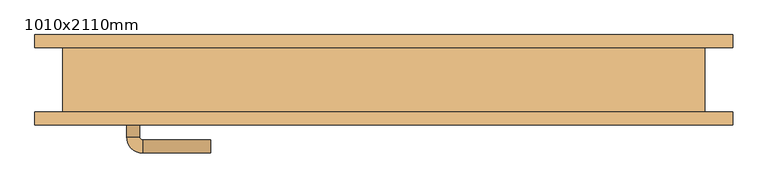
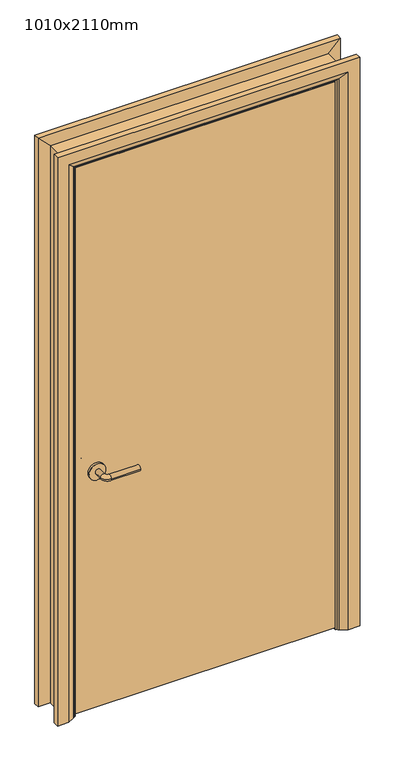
"""IFC4 building model written with IfcOpenShell, lengths in millimetres: door geometry, BIMHealth-Single_Door-LOD2A-v1 : 1010x2110mm."""

import ifcopenshell
import ifcopenshell.guid

model = None  # the IFC model being written
_history = None  # IfcOwnerHistory: only IFC2X3 demands one
_inside = {}  # id of a spatial element -> (the spatial element, [elements in it])
_under = {}  # id of a project, library or spatial element -> (it, [spatial elements below it])
_declared = {}  # id of a project -> (the project, [libraries it declares])
_typed = {}  # id of a type object -> (the type object, [elements of that type])
_made_of = {}  # id of a material, layer set ... -> (it, [elements and type objects made of it])


def new_model(schema):
    """Start an empty IFC model of exactly this schema.

    Asked for "IFC4X3", IfcOpenShell would pick the latest addendum, in which some entities
    have other attributes; the version numbers below select the first issue.
    IFC2X3 requires an IfcOwnerHistory on every rooted entity: one is made here for all.
    """
    global model, _history
    if schema == "IFC4X3":
        model = ifcopenshell.file(schema_version=(4, 3, 0, 0))
    else:
        model = ifcopenshell.file(schema=schema)
    _inside.clear()
    _under.clear()
    _declared.clear()
    _typed.clear()
    _made_of.clear()
    _history = None
    if model.schema == "IFC2X3":
        org = make("IfcOrganization", Name="unknown")
        user = make(
            "IfcPersonAndOrganization",
            ThePerson=make("IfcPerson", FamilyName="unknown"),
            TheOrganization=org,
        )
        app = make(
            "IfcApplication",
            ApplicationDeveloper=org,
            Version="unknown",
            ApplicationFullName="unknown",
            ApplicationIdentifier="unknown",
        )
        _history = make(
            "IfcOwnerHistory",
            OwningUser=user,
            OwningApplication=app,
            ChangeAction="ADDED",
            CreationDate=0,
        )
    return model


def make(cls, **values):
    """One entity of the class cls with the attributes given. An attribute that is None is left unset."""
    return model.create_entity(
        cls, **{name: value for name, value in values.items() if value is not None}
    )


def rooted(cls, **values):
    """An entity with a GlobalId (a new one), such as an element, a storey or a relation."""
    return make(cls, GlobalId=ifcopenshell.guid.new(), OwnerHistory=_history, **values)


def si_unit(unit_type, name, prefix=None):
    """IfcSIUnit, for example si_unit("LENGTHUNIT", "METRE", prefix="MILLI")."""
    return make("IfcSIUnit", UnitType=unit_type, Prefix=prefix, Name=name)


def assignment(units):
    """IfcUnitAssignment: the units of a project."""
    return None if units is None else make("IfcUnitAssignment", Units=units)


def point(xyz):
    """IfcCartesianPoint."""
    return None if xyz is None else make("IfcCartesianPoint", Coordinates=xyz)


def direction(xyz):
    """IfcDirection."""
    return None if xyz is None else make("IfcDirection", DirectionRatios=xyz)


def frame(location, z_axis=None, x_axis=None):
    """IfcAxis2Placement3D, a coordinate frame: its origin and axes. An axis left out is left unset."""
    return make(
        "IfcAxis2Placement3D",
        Location=point(location),
        Axis=direction(z_axis),
        RefDirection=direction(x_axis),
    )


def frame_2d(location, x_axis=None):
    """IfcAxis2Placement2D, a coordinate frame in the plane: its origin and x axis."""
    return make(
        "IfcAxis2Placement2D", Location=point(location), RefDirection=direction(x_axis)
    )


def origin():
    """The frame at (0, 0, 0) with its axes left unset."""
    return frame((0.0, 0.0, 0.0))


def place(relative_to, where):
    """IfcLocalPlacement: puts the frame where relative to a parent placement (None: the world)."""
    return make(
        "IfcLocalPlacement", PlacementRelTo=relative_to, RelativePlacement=where
    )


def context(
    kind, dimensions, precision=None, world=None, true_north=None, identifier=None
):
    """IfcGeometricRepresentationContext, for example the 3D "Model" context."""
    return make(
        "IfcGeometricRepresentationContext",
        ContextIdentifier=identifier,
        ContextType=kind,
        CoordinateSpaceDimension=dimensions,
        Precision=precision,
        WorldCoordinateSystem=world,
        TrueNorth=true_north,
    )


def project(units=None, contexts=None):
    """IfcProject with its units and contexts."""
    return rooted(
        "IfcProject",
        Name="project",
        RepresentationContexts=contexts,
        UnitsInContext=assignment(units),
    )


def spatial(cls, under=None, at=None, **own):
    """A site, building, storey or space (cls), placed at a placement, below another one or the project."""
    s = rooted(cls, ObjectPlacement=at, **own)
    if under is not None:
        _under.setdefault(under.id(), (under, []))[1].append(s)
    return s


def polyline(points):
    """IfcPolyline through the points."""
    return make("IfcPolyline", Points=[point(p) for p in points])


def circle_curve(where, radius):
    """IfcCircle in the frame where."""
    return make("IfcCircle", Position=where, Radius=radius)


def ellipse_curve(where, semi_axis1, semi_axis2):
    """IfcEllipse in the frame where."""
    return make(
        "IfcEllipse", Position=where, SemiAxis1=semi_axis1, SemiAxis2=semi_axis2
    )


def trimmed(basis, trim1, trim2, sense, master):
    """IfcTrimmedCurve: the piece of a basis curve between two trims."""
    return make(
        "IfcTrimmedCurve",
        BasisCurve=basis,
        Trim1=trim1,
        Trim2=trim2,
        SenseAgreement=sense,
        MasterRepresentation=master,
    )


def segment(curve, same_sense, transition):
    """IfcCompositeCurveSegment."""
    return make(
        "IfcCompositeCurveSegment",
        Transition=transition,
        SameSense=same_sense,
        ParentCurve=curve,
    )


def composite_curve(segments, self_intersect=None):
    """IfcCompositeCurve: segments joined end to end."""
    return make("IfcCompositeCurve", Segments=segments, SelfIntersect=self_intersect)


def outline(outer, holes=None, kind="AREA"):
    """IfcArbitraryClosedProfileDef: a profile drawn as a closed curve; with holes, ...WithVoids."""
    if holes is None:
        return make("IfcArbitraryClosedProfileDef", ProfileType=kind, OuterCurve=outer)
    return make(
        "IfcArbitraryProfileDefWithVoids",
        ProfileType=kind,
        OuterCurve=outer,
        InnerCurves=holes,
    )


def extrude(swept, where, along, depth):
    """IfcExtrudedAreaSolid: the profile swept, set in the frame where, extruded along a direction by depth."""
    return make(
        "IfcExtrudedAreaSolid",
        SweptArea=swept,
        Position=where,
        ExtrudedDirection=direction(along),
        Depth=depth,
    )


def faces_of(points, faces, orient=None, outer=None):
    """IfcFace entities. A face is a list of loops; a loop is a list of indices into points, from 0.

    orient and outer hold one flag for each loop. By default every Orientation is true, the
    first loop of a face is its IfcFaceOuterBound and the others are IfcFaceBound.
    """
    made = []
    for i, loops in enumerate(faces):
        bounds = []
        for j, loop in enumerate(loops):
            is_outer = j == 0 if outer is None else outer[i][j]
            bounds.append(
                make(
                    "IfcFaceOuterBound" if is_outer else "IfcFaceBound",
                    Bound=make("IfcPolyLoop", Polygon=[points[k] for k in loop]),
                    Orientation=True if orient is None else orient[i][j],
                )
            )
        made.append(make("IfcFace", Bounds=bounds))
    return made


def faceted_brep(points, faces, orient=None, outer=None, voids=None):
    """IfcFacetedBrep: a solid bounded by flat faces; with voids (closed shells), ...WithVoids."""
    shared = [point(p) for p in points]
    hull = make("IfcClosedShell", CfsFaces=faces_of(shared, faces, orient, outer))
    if voids is None:
        return make("IfcFacetedBrep", Outer=hull)
    return make(
        "IfcFacetedBrepWithVoids",
        Outer=hull,
        Voids=[
            make(cls, CfsFaces=faces_of(shared, fs, o, b)) for cls, fs, o, b in voids
        ],
    )


def shape(context_of_items, identifier, shape_type, items):
    """IfcShapeRepresentation: the items that make up one representation, for example the "Body"."""
    return make(
        "IfcShapeRepresentation",
        ContextOfItems=context_of_items,
        RepresentationIdentifier=identifier,
        RepresentationType=shape_type,
        Items=items,
    )


def source(mapping_origin, context_of_items, identifier, shape_type, items):
    """IfcRepresentationMap: a shape defined once, which mapped items show again and again."""
    return make(
        "IfcRepresentationMap",
        MappingOrigin=mapping_origin,
        MappedRepresentation=shape(context_of_items, identifier, shape_type, items),
    )


def transform(
    local_origin,
    x_axis=None,
    y_axis=None,
    z_axis=None,
    scale=None,
    scale2=None,
    scale3=None,
    uniform=True,
):
    """IfcCartesianTransformationOperator3D, or its non-uniform kind. x_axis, y_axis, z_axis: its Axis1, 2, 3."""
    if uniform:
        return make(
            "IfcCartesianTransformationOperator3D",
            Axis1=direction(x_axis),
            Axis2=direction(y_axis),
            LocalOrigin=point(local_origin),
            Scale=scale,
            Axis3=direction(z_axis),
        )
    return make(
        "IfcCartesianTransformationOperator3DnonUniform",
        Axis1=direction(x_axis),
        Axis2=direction(y_axis),
        LocalOrigin=point(local_origin),
        Scale=scale,
        Axis3=direction(z_axis),
        Scale2=scale2,
        Scale3=scale3,
    )


def mapped(mapping_source, mapping_target):
    """IfcMappedItem: shows the shape of a source again, moved by a transform."""
    return make(
        "IfcMappedItem", MappingSource=mapping_source, MappingTarget=mapping_target
    )


def made_of(thing, what):
    """Note that an element or type object is made of a material, layer set ...; save() writes the relation."""
    if what is not None:
        _made_of.setdefault(what.id(), (what, []))[1].append(thing)
    return thing


def element(
    cls,
    number,
    at=None,
    inside=None,
    cuts=None,
    type_object=None,
    material=None,
    context=None,
    identifier="Body",
    shape_type=None,
    held_by="IfcProductDefinitionShape",
    body=None,
    shapes=None,
    **own,
):
    """One element of the class cls, such as IfcWall. Its Tag is "e" and its number.

    at: its placement. inside: the storey or other place that contains it. cuts: it is an
    opening in that element (IfcRelVoidsElement). A single representation is given by context,
    identifier, shape_type and body (its items); several are given by shapes. held_by: the class
    of the entity that holds the representations. save() writes the other relations.
    """
    e = rooted(cls, Tag="e%d" % number, ObjectPlacement=at, **own)
    if body is not None:
        shapes = [shape(context, identifier, shape_type, body)]
    if shapes is not None:
        e.Representation = make(held_by, Representations=shapes)
    if inside is not None:
        _inside.setdefault(inside.id(), (inside, []))[1].append(e)
    if cuts is not None:
        rooted(
            "IfcRelVoidsElement", RelatingBuildingElement=cuts, RelatedOpeningElement=e
        )
    if type_object is not None:
        _typed.setdefault(type_object.id(), (type_object, []))[1].append(e)
    return made_of(e, material)


def aggregate(whole, parts):
    """IfcRelAggregates: a whole, such as a stair, and the parts it consists of."""
    return rooted("IfcRelAggregates", RelatingObject=whole, RelatedObjects=parts)


def save(model, path):
    """Write the relations noted so far, then the file.

    IfcRelAggregates (storeys below a building ...), IfcRelContainedInSpatialStructure (elements
    in a storey), IfcRelDefinesByType, IfcRelAssociatesMaterial and IfcRelDeclares: one each for
    every whole, place, type object, material and project.
    """
    for whole, parts in _under.values():
        aggregate(whole, parts)
    for where, things in _inside.values():
        rooted(
            "IfcRelContainedInSpatialStructure",
            RelatedElements=things,
            RelatingStructure=where,
        )
    for kind, things in _typed.values():
        rooted("IfcRelDefinesByType", RelatedObjects=things, RelatingType=kind)
    for what, things in _made_of.values():
        rooted("IfcRelAssociatesMaterial", RelatedObjects=things, RelatingMaterial=what)
    for by, libraries in _declared.values():
        rooted("IfcRelDeclares", RelatingContext=by, RelatedDefinitions=libraries)
    model.write(path)


def plane_surface(at):
    """IfcPlane: the flat surface through the origin of the frame at, square to its z axis."""
    return make("IfcPlane", Position=at)


def cylinder_surface(at, radius):
    """IfcCylindricalSurface: all points at the distance radius from the z axis of the frame at."""
    return make("IfcCylindricalSurface", Position=at, Radius=radius)


def revolved_surface(curve, axis_point, axis_direction):
    """IfcSurfaceOfRevolution: the curve turned about the line through axis_point along axis_direction."""
    return make(
        "IfcSurfaceOfRevolution",
        SweptCurve=make("IfcArbitraryOpenProfileDef", ProfileType="CURVE", Curve=curve),
        AxisPosition=make("IfcAxis1Placement", Location=point(axis_point), Axis=direction(axis_direction)),
    )


def advanced_brep(points, edges, surfaces, faces):
    """IfcAdvancedBrep: a solid bounded by faces that lie on surfaces and meet in shared edges.

    An edge is (start, end): straight between two places in points (the first is 0);
    or (start, end, curve); or (start, end, curve, False) where it runs against its curve.
    A face is (place in surfaces, loops), or (place, loops, False) where it looks against
    its surface's normal. A loop lists edges by number (the first is 1), with a minus sign
    where the edge is run from its end to its start. The first loop is the outer one.
    """
    corners = [point(p) for p in points]
    vertices = [make("IfcVertexPoint", VertexGeometry=c) for c in corners]
    made = []
    for start, end, *more in edges:
        made.append(
            make(
                "IfcEdgeCurve",
                EdgeStart=vertices[start],
                EdgeEnd=vertices[end],
                EdgeGeometry=more[0] if more else make("IfcPolyline", Points=[corners[start], corners[end]]),
                SameSense=more[1] if len(more) > 1 else True,
            )
        )
    hull = []
    for where, loops, *sense in faces:
        bounds = []
        for j, loop in enumerate(loops):
            ring = [make("IfcOrientedEdge", EdgeElement=made[abs(k) - 1], Orientation=k > 0) for k in loop]
            bounds.append(
                make(
                    "IfcFaceOuterBound" if j == 0 else "IfcFaceBound",
                    Bound=make("IfcEdgeLoop", EdgeList=ring),
                    Orientation=True,
                )
            )
        hull.append(make("IfcAdvancedFace", Bounds=bounds, FaceSurface=surfaces[where], SameSense=sense[0] if sense else True))
    return make("IfcAdvancedBrep", Outer=make("IfcClosedShell", CfsFaces=hull))


def door_1010x2110mm_ad0e13af(model_context):
    return source(origin(), model_context, "Body", "SolidModel", [
        advanced_brep(
        [(-398.0, -4.0, 900.0), (-378.0, -4.0, 900.0), (-398.0, 26.0, 900.0), (-378.0, 26.0, 900.0), (-373.0, 31.0, 900.0), (-373.0, 51.0, 900.0), (-268.0, 51.0, 900.0), (-268.0, 31.0, 900.0)],
        [
            (0, 1, circle_curve(frame((-388.0, -4.0, 900.0), z_axis=(0.0, -1.0, 0.0), x_axis=(1.0, 0.0, 0.0)), 10.0)),
            (1, 0, circle_curve(frame((-388.0, -4.0, 900.0), z_axis=(0.0, -1.0, 0.0), x_axis=(1.0, 0.0, 0.0)), 10.0)),
            (0, 2),
            (2, 3, circle_curve(frame((-388.0, 26.0, 900.0), z_axis=(0.0, -1.0, 0.0), x_axis=(1.0, 0.0, 0.0)), 10.0)),
            (3, 1),
            (3, 2, circle_curve(frame((-388.0, 26.0, 900.0), z_axis=(0.0, -1.0, 0.0), x_axis=(1.0, 0.0, 0.0)), 10.0)),
            (4, 3, circle_curve(frame((-373.0, 26.0, 900.0), z_axis=(0.0, 0.0, 1.0), x_axis=(-1.0, 0.0, 0.0)), 5.0)),
            (2, 5, circle_curve(frame((-373.0, 26.0, 900.0), z_axis=(0.0, 0.0, -1.0), x_axis=(-1.0, 0.0, 0.0)), 25.0)),
            (5, 4, circle_curve(frame((-373.0, 41.0, 900.0), z_axis=(-1.0, 0.0, 0.0), x_axis=(0.0, -1.0, 0.0)), 10.0)),
            (4, 5, circle_curve(frame((-373.0, 41.0, 900.0), z_axis=(-1.0, 0.0, 0.0), x_axis=(0.0, -1.0, 0.0)), 10.0)),
            (6, 7, circle_curve(frame((-268.0, 41.0, 900.0), z_axis=(1.0, 0.0, 0.0), x_axis=(0.0, -1.0, 0.0)), 10.0)),
            (7, 6, circle_curve(frame((-268.0, 41.0, 900.0), z_axis=(1.0, 0.0, 0.0), x_axis=(0.0, -1.0, 0.0)), 10.0)),
            (5, 6),
            (7, 4),
        ],
        [
            plane_surface(frame((-388.0, -4.0, 900.0), z_axis=(0.0, -1.0, 0.0), x_axis=(0.0, 0.0, 1.0))),
            cylinder_surface(frame((-388.0, -4.0, 900.0), z_axis=(0.0, -1.0, 0.0), x_axis=(1.0, 0.0, 0.0)), 10.0),
            revolved_surface(trimmed(ellipse_curve(frame((-388.0, 26.0, 900.0), z_axis=(0.0, -1.0, 0.0), x_axis=(1.0, 0.0, 0.0)), 10.0, 10.0), [point((-398.0, 26.0, 900.0))], [point((-378.0, 26.0, 900.0))], True, "CARTESIAN"), (-373.0, 26.0, 900.0), (0.0, 0.0, -1.0)),
            revolved_surface(trimmed(ellipse_curve(frame((-388.0, 26.0, 900.0), z_axis=(0.0, -1.0, 0.0), x_axis=(1.0, 0.0, 0.0)), 10.0, 10.0), [point((-378.0, 26.0, 900.0))], [point((-398.0, 26.0, 900.0))], True, "CARTESIAN"), (-373.0, 26.0, 900.0), (0.0, 0.0, -1.0)),
            plane_surface(frame((-268.0, 41.0, 900.0), z_axis=(1.0, 0.0, 0.0), x_axis=(0.0, 0.0, 1.0))),
            cylinder_surface(frame((-373.0, 41.0, 900.0), z_axis=(-1.0, 0.0, 0.0), x_axis=(0.0, -1.0, 0.0)), 10.0),
        ],
        [
            (0, [[1, 2]]),
            (1, [[-1, 3, 4, 5]]),
            (1, [[-2, -5, 6, -3]]),
            (2, [[7, -4, 8, 9]]),
            (3, [[-8, -6, -7, 10]]),
            (4, [[11, 12]]),
            (5, [[-9, 13, -12, 14]]),
            (5, [[-10, -14, -11, -13]]),
        ],
    ),
        extrude(outline(composite_curve([segment(trimmed(circle_curve(frame_2d((900.0, -390.5)), 30.0), [point((900.0, -420.5))], [point((900.0, -360.5))], False, "CARTESIAN"), True, "CONTINUOUS"), segment(trimmed(circle_curve(frame_2d((900.0, -390.5)), 30.0), [point((900.0, -360.5))], [point((900.0, -420.5))], False, "CARTESIAN"), True, "CONTINUOUS")], self_intersect=False)), frame((0.0, -12.0, 0.0), z_axis=(0.0, 1.0, 0.0), x_axis=(0.0, 0.0, 1.0)), (0.0, 0.0, 1.0), 8.0),
        advanced_brep(
        [(-398.0, -58.0, 900.0), (-378.0, -58.0, 900.0), (-378.0, -88.0, 900.0), (-398.0, -88.0, 900.0), (-373.0, -93.0, 900.0), (-373.0, -113.0, 900.0), (-268.0, -113.0, 900.0), (-268.0, -93.0, 900.0)],
        [
            (0, 1, circle_curve(frame((-388.0, -58.0, 900.0), z_axis=(0.0, 1.0, 0.0), x_axis=(1.0, 0.0, 0.0)), 10.0)),
            (1, 0, circle_curve(frame((-388.0, -58.0, 900.0), z_axis=(0.0, 1.0, 0.0), x_axis=(1.0, 0.0, 0.0)), 10.0)),
            (1, 2),
            (2, 3, circle_curve(frame((-388.0, -88.0, 900.0), z_axis=(0.0, 1.0, 0.0), x_axis=(1.0, 0.0, 0.0)), 10.0)),
            (3, 0),
            (3, 2, circle_curve(frame((-388.0, -88.0, 900.0), z_axis=(0.0, 1.0, 0.0), x_axis=(1.0, 0.0, 0.0)), 10.0)),
            (4, 5, circle_curve(frame((-373.0, -103.0, 900.0), z_axis=(-1.0, 0.0, 0.0), x_axis=(0.0, 1.0, 0.0)), 10.0)),
            (5, 3, circle_curve(frame((-373.0, -88.0, 900.0), z_axis=(0.0, 0.0, -1.0), x_axis=(-1.0, 0.0, 0.0)), 25.0)),
            (2, 4, circle_curve(frame((-373.0, -88.0, 900.0), z_axis=(0.0, 0.0, 1.0), x_axis=(-1.0, 0.0, 0.0)), 5.0)),
            (5, 4, circle_curve(frame((-373.0, -103.0, 900.0), z_axis=(-1.0, 0.0, 0.0), x_axis=(0.0, 1.0, 0.0)), 10.0)),
            (6, 7, circle_curve(frame((-268.0, -103.0, 900.0), z_axis=(1.0, 0.0, 0.0), x_axis=(0.0, 1.0, 0.0)), 10.0)),
            (7, 6, circle_curve(frame((-268.0, -103.0, 900.0), z_axis=(1.0, 0.0, 0.0), x_axis=(0.0, 1.0, 0.0)), 10.0)),
            (4, 7),
            (6, 5),
        ],
        [
            plane_surface(frame((-388.0, -58.0, 900.0), z_axis=(0.0, 1.0, 0.0), x_axis=(0.0, 0.0, 1.0))),
            cylinder_surface(frame((-388.0, -58.0, 900.0), z_axis=(0.0, 1.0, 0.0), x_axis=(1.0, 0.0, 0.0)), 10.0),
            revolved_surface(trimmed(ellipse_curve(frame((-388.0, -88.0, 900.0), z_axis=(0.0, -1.0, 0.0), x_axis=(1.0, 0.0, 0.0)), 10.0, 10.0), [point((-398.0, -88.0, 900.0))], [point((-378.0, -88.0, 900.0))], True, "CARTESIAN"), (-373.0, -88.0, 900.0), (0.0, 0.0, -1.0)),
            revolved_surface(trimmed(ellipse_curve(frame((-388.0, -88.0, 900.0), z_axis=(0.0, -1.0, 0.0), x_axis=(1.0, 0.0, 0.0)), 10.0, 10.0), [point((-378.0, -88.0, 900.0))], [point((-398.0, -88.0, 900.0))], True, "CARTESIAN"), (-373.0, -88.0, 900.0), (0.0, 0.0, -1.0)),
            plane_surface(frame((-268.0, -103.0, 900.0), z_axis=(1.0, 0.0, 0.0), x_axis=(0.0, 0.0, 1.0))),
            cylinder_surface(frame((-373.0, -103.0, 900.0), z_axis=(-1.0, 0.0, 0.0), x_axis=(0.0, 1.0, 0.0)), 10.0),
        ],
        [
            (0, [[1, 2]]),
            (1, [[3, 4, 5, -2]]),
            (1, [[-5, 6, -3, -1]]),
            (2, [[7, 8, -4, 9]]),
            (3, [[10, -9, -6, -8]]),
            (4, [[11, 12]]),
            (5, [[13, -11, 14, -7]]),
            (5, [[-14, -12, -13, -10]]),
        ],
    ),
        extrude(outline(composite_curve([segment(trimmed(circle_curve(frame_2d((900.0, -390.5)), 30.0), [point((900.0, -420.5))], [point((900.0, -360.5))], False, "CARTESIAN"), True, "CONTINUOUS"), segment(trimmed(circle_curve(frame_2d((900.0, -390.5)), 30.0), [point((900.0, -360.5))], [point((900.0, -420.5))], False, "CARTESIAN"), True, "CONTINUOUS")], self_intersect=False)), frame((0.0, -58.0, 0.0), z_axis=(0.0, 1.0, 0.0), x_axis=(0.0, 0.0, 1.0)), (0.0, 0.0, 1.0), 8.0),
        extrude(outline(polyline([(463.0, -12.0), (463.0, -50.0), (-463.0, -50.0), (-463.0, -12.0), (463.0, -12.0)])), frame((0.0, 0.0, 8.0), z_axis=(0.0, 0.0, 1.0), x_axis=(1.0, 0.0, 0.0)), (0.0, 0.0, 1.0), 2060.0),
        advanced_brep(
        [(540.0, -70.0, 0.0), (500.0, -70.0, 0.0), (474.0, -56.0, 0.0), (470.0, -50.0, 0.0), (540.0, -50.0, 0.0), (540.0, -50.0, 2145.0), (540.0, -70.0, 2145.0), (470.0, -50.0, 2075.0), (-470.0, -50.0, 2075.0), (-470.0, -50.0, 0.0), (-540.0, -50.0, 0.0), (-540.0, -50.0, 2145.0), (474.0, -56.0, 2079.0), (500.0, -70.0, 2105.0), (-540.0, -70.0, 2145.0), (-540.0, -70.0, 0.0), (-500.0, -70.0, 0.0), (-500.0, -70.0, 2105.0), (-474.0, -56.0, 0.0), (-474.0, -56.0, 2079.0)],
        [
            (0, 1),
            (1, 2),
            (2, 3, circle_curve(frame((478.0, -49.0, 0.0), z_axis=(0.0, 0.0, -1.0), x_axis=(1.0, 0.0, 0.0)), 8.0622577)),
            (3, 4),
            (4, 0),
            (4, 5),
            (5, 6),
            (6, 0),
            (3, 7),
            (7, 8),
            (8, 9),
            (9, 10),
            (10, 11),
            (11, 5),
            (2, 12),
            (12, 7, ellipse_curve(frame((478.0, -49.0, 2083.0), z_axis=(0.7071067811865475, 0.0, -0.7071067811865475), x_axis=(-0.7071067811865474, 0.0, -0.7071067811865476)), 11.4017543, 8.0622577)),
            (1, 13),
            (13, 12),
            (6, 14),
            (14, 15),
            (15, 16),
            (16, 17),
            (17, 13),
            (10, 15),
            (14, 11),
            (9, 18, circle_curve(frame((-478.0, -49.0, 0.0), z_axis=(0.0, 0.0, -1.0), x_axis=(-1.0, 0.0, 0.0)), 8.0622577)),
            (18, 16),
            (19, 18),
            (8, 19, ellipse_curve(frame((-478.0, -49.0, 2083.0), z_axis=(-0.7071067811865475, 0.0, -0.7071067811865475), x_axis=(-0.7071067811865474, 0.0, 0.7071067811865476)), 11.4017543, 8.0622577)),
            (19, 17),
            (12, 19),
        ],
        [
            plane_surface(frame((470.0, -50.0, 0.0), z_axis=(0.0, 0.0, -1.0), x_axis=(0.0, 1.0, 0.0))),
            plane_surface(frame((540.0, -70.0, 0.0), z_axis=(1.0, 0.0, 0.0), x_axis=(0.0, 0.0, 1.0))),
            plane_surface(frame((540.0, -50.0, 0.0), z_axis=(0.0, 1.0, 0.0), x_axis=(0.0, 0.0, 1.0))),
            cylinder_surface(frame((478.0, -49.0, 0.0), z_axis=(0.0, 0.0, -1.0), x_axis=(1.0, 0.0, 0.0)), 8.0622577),
            plane_surface(frame((474.0, -56.0, 0.0), z_axis=(-0.4740998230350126, -0.880471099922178, 0.0), x_axis=(0.0, 0.0, 1.0))),
            plane_surface(frame((500.0, -70.0, 0.0), z_axis=(0.0, -1.0, 0.0), x_axis=(0.0, 0.0, 1.0))),
            plane_surface(frame((-540.0, -70.0, 2145.0), z_axis=(-1.0, 0.0, 0.0), x_axis=(0.0, 0.0, -1.0))),
            plane_surface(frame((-470.0, -50.0, 0.0), z_axis=(0.0, 0.0, -1.0), x_axis=(0.0, 1.0, 0.0))),
            cylinder_surface(frame((-478.0, -49.0, 2075.0), z_axis=(0.0, 0.0, 1.0), x_axis=(-1.0, 0.0, 0.0)), 8.0622577),
            plane_surface(frame((-474.0, -56.0, 2079.0), z_axis=(0.47409982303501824, -0.8804710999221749, 0.0), x_axis=(0.0, 0.0, -1.0))),
            plane_surface(frame((540.0, -70.0, 2145.0), z_axis=(0.0, 0.0, 1.0), x_axis=(-1.0, 0.0, 0.0))),
            cylinder_surface(frame((470.0, -49.0, 2083.0), z_axis=(1.0, 0.0, 0.0), x_axis=(0.0, 0.0, 1.0)), 8.0622577),
            plane_surface(frame((474.0, -56.0, 2079.0), z_axis=(0.0, -0.8804710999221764, -0.4740998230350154), x_axis=(-1.0, 0.0, 0.0))),
        ],
        [
            (0, [[1, 2, 3, 4, 5]]),
            (1, [[6, 7, 8, -5]]),
            (2, [[9, 10, 11, 12, 13, 14, -6, -4]]),
            (3, [[15, 16, -9, -3]]),
            (4, [[17, 18, -15, -2]]),
            (5, [[-8, 19, 20, 21, 22, 23, -17, -1]]),
            (6, [[-13, 24, -20, 25]]),
            (7, [[-24, -12, 26, 27, -21]]),
            (8, [[28, -26, -11, 29]]),
            (9, [[-22, -27, -28, 30]]),
            (10, [[-14, -25, -19, -7]]),
            (11, [[31, -29, -10, -16]]),
            (12, [[-23, -30, -31, -18]]),
        ],
    ),
        extrude(outline(polyline([(0.0, -446.0), (2051.0, -446.0), (2051.0, 446.0), (0.0, 446.0), (0.0, 465.0), (2070.0, 465.0), (2070.0, -465.0), (0.0, -465.0), (0.0, -446.0)])), frame((0.0, -10.0, 0.0), z_axis=(0.0, 1.0, 0.0), x_axis=(0.0, 0.0, 1.0)), (0.0, 0.0, 1.0), 32.0),
        advanced_brep(
        [(-540.0, 70.0, 0.0), (-500.0, 70.0, 0.0), (-474.0, 56.0, 0.0), (-470.0, 50.0, 0.0), (-540.0, 50.0, 0.0), (-540.0, 50.0, 2145.0), (-540.0, 70.0, 2145.0), (-470.0, 50.0, 2075.0), (-474.0, 56.0, 2079.0), (-500.0, 70.0, 2105.0), (540.0, 70.0, 0.0), (540.0, 50.0, 0.0), (470.0, 50.0, 0.0), (474.0, 56.0, 0.0), (500.0, 70.0, 0.0), (540.0, 70.0, 2145.0), (500.0, 70.0, 2105.0), (474.0, 56.0, 2079.0), (470.0, 50.0, 2075.0), (540.0, 50.0, 2145.0)],
        [
            (0, 1),
            (1, 2),
            (2, 3, circle_curve(frame((-478.0, 49.0, 0.0), z_axis=(0.0, 0.0, -1.0), x_axis=(-1.0, 0.0, 0.0)), 8.0622577)),
            (3, 4),
            (4, 0),
            (4, 5),
            (5, 6),
            (6, 0),
            (3, 7),
            (7, 5),
            (2, 8),
            (8, 7, ellipse_curve(frame((-478.0, 49.0, 2083.0), z_axis=(-0.7071067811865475, 0.0, -0.7071067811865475), x_axis=(0.7071067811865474, 0.0, -0.7071067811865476)), 11.4017543, 8.0622577)),
            (1, 9),
            (9, 8),
            (6, 9),
            (10, 11),
            (11, 12),
            (12, 13, circle_curve(frame((478.0, 49.0, 0.0), z_axis=(0.0, 0.0, -1.0), x_axis=(1.0, 0.0, 0.0)), 8.0622577)),
            (13, 14),
            (14, 10),
            (15, 10),
            (14, 16),
            (16, 15),
            (13, 17),
            (17, 16),
            (12, 18),
            (18, 17, ellipse_curve(frame((478.0, 49.0, 2083.0), z_axis=(0.7071067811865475, 0.0, -0.7071067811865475), x_axis=(0.7071067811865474, 0.0, 0.7071067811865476)), 11.4017543, 8.0622577)),
            (11, 19),
            (19, 18),
            (15, 19),
            (5, 19),
            (15, 6),
            (7, 18),
            (8, 17),
            (9, 16),
        ],
        [
            plane_surface(frame((-470.0, 122.8010989, 0.0), z_axis=(0.0, 0.0, -1.0), x_axis=(1.0, 0.0, 0.0))),
            plane_surface(frame((-540.0, 70.0, 0.0), z_axis=(-1.0, 0.0, 0.0), x_axis=(0.0, 0.0, 1.0))),
            plane_surface(frame((-540.0, 50.0, 0.0), z_axis=(0.0, -1.0, 0.0), x_axis=(0.0, 0.0, 1.0))),
            cylinder_surface(frame((-478.0, 49.0, 0.0), z_axis=(0.0, 0.0, -1.0), x_axis=(-1.0, 0.0, 0.0)), 8.0622577),
            plane_surface(frame((-474.0, 56.0, 0.0), z_axis=(0.4740998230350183, 0.8804710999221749, 0.0), x_axis=(0.0, 0.0, 1.0))),
            plane_surface(frame((-500.0, 70.0, 0.0), z_axis=(0.0, 1.0, 0.0), x_axis=(0.0, 0.0, 1.0))),
            plane_surface(frame((470.0, 122.8010989, 0.0), z_axis=(0.0, 0.0, -1.0), x_axis=(-1.0, 0.0, 0.0))),
            plane_surface(frame((500.0, 70.0, 2105.0), z_axis=(0.0, 1.0, 0.0), x_axis=(0.0, 0.0, -1.0))),
            plane_surface(frame((474.0, 56.0, 2079.0), z_axis=(-0.4740998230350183, 0.8804710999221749, 0.0), x_axis=(0.0, 0.0, -1.0))),
            cylinder_surface(frame((478.0, 49.0, 2075.0), z_axis=(0.0, 0.0, 1.0), x_axis=(1.0, 0.0, 0.0)), 8.0622577),
            plane_surface(frame((540.0, 50.0, 2145.0), z_axis=(0.0, -1.0, 0.0), x_axis=(0.0, 0.0, -1.0))),
            plane_surface(frame((540.0, 70.0, 2145.0), z_axis=(1.0, 0.0, 0.0), x_axis=(0.0, 0.0, -1.0))),
            plane_surface(frame((-540.0, 70.0, 2145.0), z_axis=(0.0, 0.0, 1.0), x_axis=(1.0, 0.0, 0.0))),
            plane_surface(frame((-540.0, 50.0, 2145.0), z_axis=(0.0, -1.0, 0.0), x_axis=(1.0, 0.0, 0.0))),
            cylinder_surface(frame((-470.0, 49.0, 2083.0), z_axis=(-1.0, 0.0, 0.0), x_axis=(0.0, 0.0, 1.0)), 8.0622577),
            plane_surface(frame((-474.0, 56.0, 2079.0), z_axis=(0.0, 0.8804710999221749, -0.4740998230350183), x_axis=(1.0, 0.0, 0.0))),
            plane_surface(frame((-500.0, 70.0, 2105.0), z_axis=(0.0, 1.0, 0.0), x_axis=(1.0, 0.0, 0.0))),
        ],
        [
            (0, [[1, 2, 3, 4, 5]]),
            (1, [[6, 7, 8, -5]]),
            (2, [[9, 10, -6, -4]]),
            (3, [[11, 12, -9, -3]]),
            (4, [[13, 14, -11, -2]]),
            (5, [[-8, 15, -13, -1]]),
            (6, [[16, 17, 18, 19, 20]]),
            (7, [[21, -20, 22, 23]]),
            (8, [[-22, -19, 24, 25]]),
            (9, [[-24, -18, 26, 27]]),
            (10, [[-26, -17, 28, 29]]),
            (11, [[-28, -16, -21, 30]]),
            (12, [[31, -30, 32, -7]]),
            (13, [[33, -29, -31, -10]]),
            (14, [[34, -27, -33, -12]]),
            (15, [[35, -25, -34, -14]]),
            (16, [[-32, -23, -35, -15]]),
        ],
    ),
        faceted_brep([(-465.0, -50.0, 0.0), (-497.0, -50.0, 0.0), (-497.0, 50.0, 0.0), (-465.0, 50.0, 0.0), (-465.0, 50.0, 2070.0), (-465.0, -50.0, 2070.0), (-497.0, 50.0, 2102.0), (-497.0, -50.0, 2102.0), (465.0, -50.0, 0.0), (465.0, 50.0, 0.0), (497.0, 50.0, 0.0), (497.0, -50.0, 0.0), (465.0, -50.0, 2070.0), (497.0, -50.0, 2102.0), (497.0, 50.0, 2102.0), (465.0, 50.0, 2070.0)], [[[0, 1, 2, 3]], [[3, 4, 5, 0]], [[2, 6, 4, 3]], [[1, 7, 6, 2]], [[0, 5, 7, 1]], [[8, 9, 10, 11]], [[12, 8, 11, 13]], [[13, 11, 10, 14]], [[14, 10, 9, 15]], [[15, 9, 8, 12]], [[4, 15, 12, 5]], [[6, 14, 15, 4]], [[7, 13, 14, 6]], [[5, 12, 13, 7]]]),
    ])


if __name__ == "__main__":
    model = new_model("IFC4")
    model_context = context("Model", 3, world=origin())
    ifc_project = project(units=[si_unit("LENGTHUNIT", "METRE", prefix="MILLI")], contexts=[model_context])
    site = spatial("IfcSite", under=ifc_project)
    building = spatial("IfcBuilding", under=site)
    placement = place(None, origin())
    door_1010x2110mm_shape = door_1010x2110mm_ad0e13af(model_context)
    element("IfcDoor", 1, ObjectType="BIMHealth-Single_Door-LOD2A-v1 : 1010x2110mm", at=placement, inside=building, context=model_context, shape_type="MappedRepresentation", body=[
        mapped(door_1010x2110mm_shape, transform((0.0, 0.0, 0.0), x_axis=(1.0, 0.0, 0.0), y_axis=(0.0, 1.0, 0.0), z_axis=(0.0, 0.0, 1.0))),
    ])
    save(model, "model.ifc")
